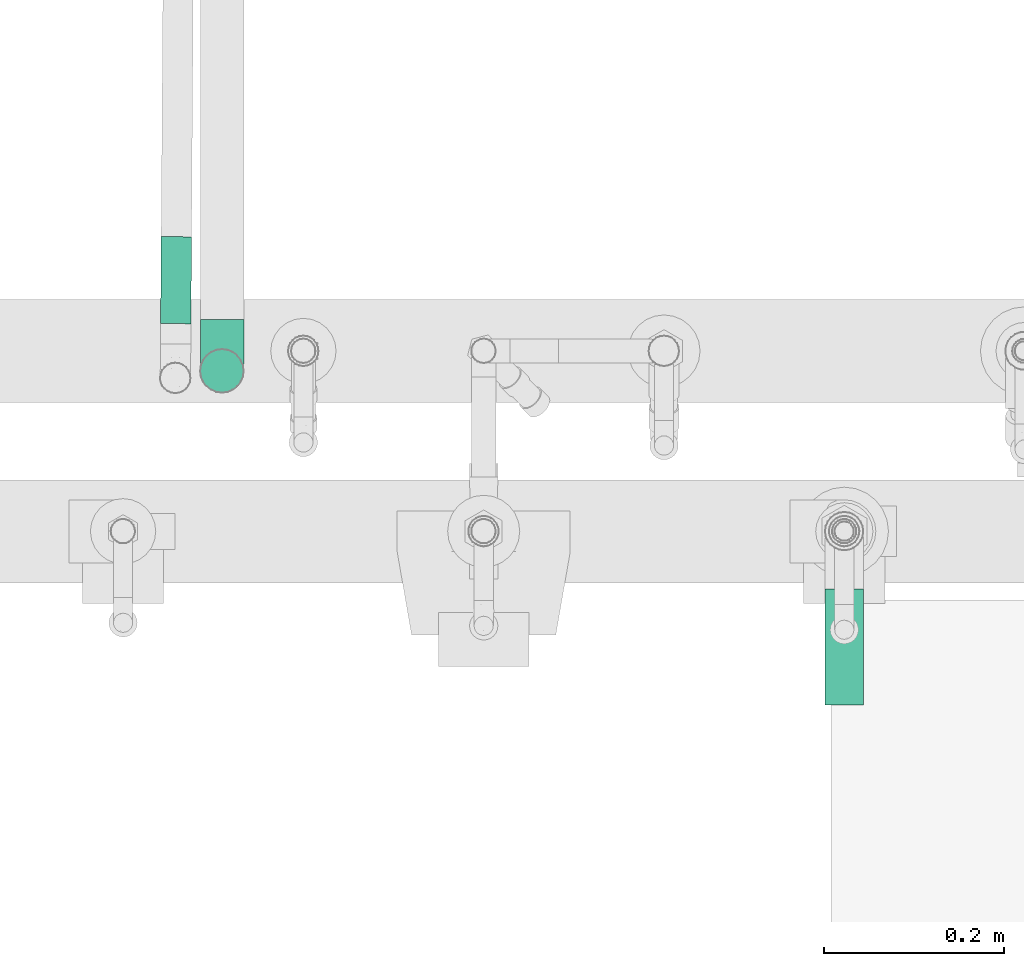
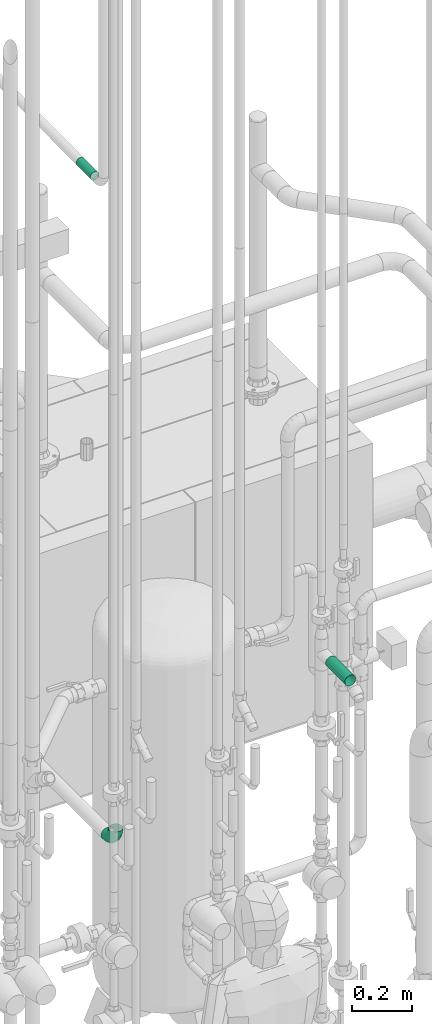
# One storey, part 272 of 374: 3 flow segments.
"""IFC2X3 building model written with IfcOpenShell, lengths in metres."""

from ifc_helpers import new_model, si_unit, direction, origin, place, context, subcontext, project, spatial, open_shell, surface_model, source, transform, mapped, element, save


model = new_model("IFC2X3")

# Units and contexts
model_context = context("Model", 3, precision=1e-05, world=origin(), true_north=direction((-0.4480736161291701, 0.8939966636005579)))
body_context = subcontext(model_context, "Body", "Model", "MODEL_VIEW")
ifc_project = project(units=[si_unit("LENGTHUNIT", "METRE"), si_unit("AREAUNIT", "SQUARE_METRE"), si_unit("VOLUMEUNIT", "CUBIC_METRE"), si_unit("PLANEANGLEUNIT", "RADIAN"), si_unit("THERMODYNAMICTEMPERATUREUNIT", "KELVIN"), si_unit("MASSUNIT", "GRAM", prefix="KILO"), si_unit("TIMEUNIT", "SECOND")], contexts=[model_context])

# Site, building, storey
site_placement = place(None, origin())
site = spatial("IfcSite", under=ifc_project, at=site_placement, Name="Site 1", CompositionType="ELEMENT")
building_placement = place(site_placement, origin())
building = spatial("IfcBuilding", under=site, at=building_placement, Name="Undefined", CompositionType="ELEMENT")
storey_placement = place(building_placement, origin())
storey = spatial("IfcBuildingStorey", under=building, at=storey_placement, Name="Rez de chauss\x8ee", CompositionType="ELEMENT", Elevation=0.0)

# Flow segments
shared_shape_1 = source(origin(), body_context, "Body", "SurfaceModel", [
    surface_model("IfcFaceBasedSurfaceModel", [(0.0, 0.005534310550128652, 0.0), (0.0, 0.0, 0.0), (0.12858966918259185, 0.0, 0.0), (0.12858966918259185, 0.00553431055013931, 0.0), (0.0, -0.00534573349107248, -0.0014323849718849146), (0.12858966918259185, -0.005345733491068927, -0.0014323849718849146), (0.0, -0.010138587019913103, -0.004199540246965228), (0.12858966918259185, -0.010138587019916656, -0.0041995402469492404), (0.0, -0.01405193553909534, -0.008112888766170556), (0.12858966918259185, -0.014051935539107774, -0.008112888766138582), (0.0, -0.016819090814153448, -0.012905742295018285), (0.12858966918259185, -0.016819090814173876, -0.012905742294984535), (0.0, -0.018251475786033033, -0.018251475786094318), (0.12858966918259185, -0.018251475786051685, -0.018251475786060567), (0.0, -0.0182514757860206, -0.02378578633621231), (0.12858966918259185, -0.01825147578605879, -0.023785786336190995), (0.0, -0.01681909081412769, -0.029131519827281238), (0.12858966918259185, -0.016819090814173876, -0.029131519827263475), (0.0, -0.014051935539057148, -0.03392437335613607), (0.12858966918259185, -0.014051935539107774, -0.03392437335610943), (0.0, -0.010138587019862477, -0.037837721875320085), (0.12858966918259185, -0.01013858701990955, -0.03783772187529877), (0.0, -0.005345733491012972, -0.040604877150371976), (0.12858966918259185, -0.005345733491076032, -0.040604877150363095), (0.0, 6.4837024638e-14, -0.042037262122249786), (0.12858966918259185, 7.105427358e-15, -0.042037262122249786), (0.0, 0.005534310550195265, -0.04203726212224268), (0.12858966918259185, 0.005534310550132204, -0.04203726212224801), (0.0, 0.010880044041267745, -0.04060487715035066), (0.12858966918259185, 0.010880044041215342, -0.040604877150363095), (0.0, 0.01567289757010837, -0.03783772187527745), (0.12858966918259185, 0.015672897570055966, -0.03783772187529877), (0.0, 0.019586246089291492, -0.033924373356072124), (0.12858966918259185, 0.019586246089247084, -0.03392437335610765), (0.0, 0.0223534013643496, -0.029131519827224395), (0.12858966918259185, 0.02235340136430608, -0.029131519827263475), (0.0, 0.02378578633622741, -0.023785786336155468), (0.12858966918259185, 0.023785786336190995, -0.023785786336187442), (0.0, 0.023785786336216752, -0.01825147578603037), (0.12858966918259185, 0.023785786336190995, -0.018251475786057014), (0.0, 0.022353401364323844, -0.012905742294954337), (0.12858966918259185, 0.022353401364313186, -0.012905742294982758), (0.0, 0.019586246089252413, -0.008112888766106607), (0.12858966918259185, 0.019586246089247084, -0.008112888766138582), (0.0, 0.015672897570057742, -0.004199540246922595), (0.12858966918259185, 0.015672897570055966, -0.0041995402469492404), (0.0, 0.010880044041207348, -0.0014323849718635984), (0.12858966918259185, 0.010880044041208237, -0.0014323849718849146)], [open_shell([[[0, 1, 2, 3]], [[1, 4, 5, 2]], [[4, 6, 7, 5]], [[6, 8, 9, 7]], [[8, 10, 11, 9]], [[10, 12, 13, 11]], [[12, 14, 15, 13]], [[14, 16, 17, 15]], [[16, 18, 19, 17]], [[18, 20, 21, 19]], [[20, 22, 23, 21]], [[22, 24, 25, 23]], [[24, 26, 27, 25]], [[26, 28, 29, 27]], [[28, 30, 31, 29]], [[30, 32, 33, 31]], [[32, 34, 35, 33]], [[34, 36, 37, 35]], [[36, 38, 39, 37]], [[38, 40, 41, 39]], [[40, 42, 43, 41]], [[42, 44, 45, 43]], [[44, 46, 47, 45]], [[46, 0, 3, 47]]])]),
])
flow_segment_1_placement = place(storey_placement, origin())
element("IfcFlowSegment", 1, at=flow_segment_1_placement, inside=storey, Name="Tube acier d'après DIN 2448", ObjectType="Tube acier d'après DIN 2448", context=body_context, shape_type="MappedRepresentation", body=[
    mapped(shared_shape_1, transform((53.66304898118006, 10.525447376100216, 2.0347979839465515), x_axis=(0.0, 1.0, 0.0), y_axis=(-0.9914448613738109, 0.0, 0.1305261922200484), z_axis=(0.1305261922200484, 0.0, 0.9914448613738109))),
])
shared_shape_2 = source(origin(), body_context, "Body", "SurfaceModel", [
    surface_model("IfcFaceBasedSurfaceModel", [(0.021184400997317, 0.0, 0.0), (0.021076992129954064, 0.006303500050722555, 0.0), (0.00010740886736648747, 0.0063035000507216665, 0.0), (0.0, 0.0, 0.0), (-0.020147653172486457, 0.007005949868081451, -0.005381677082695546), (-0.02046256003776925, 0.0007096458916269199, -0.005436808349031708), (-0.03830784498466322, 0.008362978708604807, -0.015778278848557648), (-0.03880878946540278, 0.00208057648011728, -0.015939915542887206), (-0.05313557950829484, 0.010282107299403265, -0.030481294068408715), (-0.05378842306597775, 0.004019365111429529, -0.030793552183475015), (-0.06362037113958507, 0.01263255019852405, -0.048488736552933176), (-0.0643806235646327, 0.0063938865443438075, -0.048985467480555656), (-0.06904769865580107, 0.015254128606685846, -0.0685734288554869), (-0.06986355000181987, 0.00904232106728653, -0.06927591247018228), (0.020762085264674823, 0.012388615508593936, -0.0016179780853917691), (0.00042231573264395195, 0.012388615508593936, -0.0016179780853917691), (-0.019224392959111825, 0.013069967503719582, -0.006838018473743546), (-0.03683915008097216, 0.014386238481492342, -0.016922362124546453), (-0.0512215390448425, 0.016247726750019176, -0.031183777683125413), (-0.06139142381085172, 0.01852757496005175, -0.048650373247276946), (-0.06665574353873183, 0.021070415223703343, -0.06813182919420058), (0.02026114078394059, 0.017840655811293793, -0.004743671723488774), (0.0009232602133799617, 0.01784065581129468, -0.004743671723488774), (-0.017755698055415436, 0.018488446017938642, -0.009706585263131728), (-0.03450279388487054, 0.019739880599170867, -0.019294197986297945), (-0.04817674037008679, 0.0215096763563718, -0.03285312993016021), (-0.057845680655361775, 0.02367722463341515, -0.04945936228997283), (-0.06285069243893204, 0.02609481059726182, -0.06798120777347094), (0.01960829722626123, 0.022288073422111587, -0.009164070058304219), (0.0015761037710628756, 0.0222880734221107, -0.009164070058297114), (-0.01584165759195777, 0.022892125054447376, -0.013791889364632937), (-0.031457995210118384, 0.024059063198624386, -0.02273214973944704), (-0.04420868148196, 0.02570936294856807, -0.035375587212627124), (-0.05322477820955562, 0.02773055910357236, -0.05086057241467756), (-0.057891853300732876, 0.029984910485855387, -0.06813182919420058), (0.01884804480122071, 0.025427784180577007, -0.014577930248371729), (0.002336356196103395, 0.02542778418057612, -0.014577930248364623), (-0.013612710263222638, 0.025980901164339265, -0.01881552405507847), (-0.027912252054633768, 0.027049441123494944, -0.027001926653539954), (-0.03958777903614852, 0.0285605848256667, -0.03857924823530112), (-0.047843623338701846, 0.03041135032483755, -0.052758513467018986), (-0.05211716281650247, 0.03247561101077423, -0.0685734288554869), (0.018032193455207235, 0.027045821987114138, -0.020616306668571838), (0.0031522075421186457, 0.027045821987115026, -0.020616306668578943), (-0.011220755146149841, 0.02754427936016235, -0.02443513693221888), (-0.024107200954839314, 0.028507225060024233, -0.03181255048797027), (-0.034628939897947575, 0.029869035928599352, -0.04224578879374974), (-0.04206893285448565, 0.031536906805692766, -0.055023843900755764), (-0.045920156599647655, 0.03339717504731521, -0.06927591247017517), (0.017216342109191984, 0.02703192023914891, -0.02686769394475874), (0.003968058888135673, 0.02703192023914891, -0.02686769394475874), (-0.008828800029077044, 0.02747571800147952, -0.030267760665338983), (-0.020302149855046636, 0.02833306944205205, -0.03683618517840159), (-0.02967010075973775, 0.029545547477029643, -0.04612534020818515), (-0.03629424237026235, 0.031030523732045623, -0.05750218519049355), (-0.0397231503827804, 0.032686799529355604, -0.07019140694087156), (0.016456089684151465, 0.02538702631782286, -0.03290607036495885), (0.004728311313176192, 0.025387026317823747, -0.03290607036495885), (-0.006599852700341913, 0.02577988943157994, -0.03591591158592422), (-0.016756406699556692, 0.02653884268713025, -0.04173047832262), (-0.02504919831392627, 0.027612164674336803, -0.04995351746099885), (-0.030913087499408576, 0.02892671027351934, -0.060024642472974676), (-0.033948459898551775, 0.030392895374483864, -0.07125752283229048), (0.01580324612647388, 0.022223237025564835, -0.038319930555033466), (0.005381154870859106, 0.022223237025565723, -0.03831993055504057), (-0.004685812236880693, 0.02257236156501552, -0.0409946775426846), (-0.013711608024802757, 0.023246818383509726, -0.04616189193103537), (-0.02108113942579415, 0.024200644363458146, -0.053469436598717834), (-0.026292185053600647, 0.02536883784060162, -0.06241931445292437), (-0.028989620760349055, 0.026671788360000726, -0.07240160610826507), (0.015302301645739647, 0.017756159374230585, -0.04274032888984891), (0.005882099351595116, 0.017756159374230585, -0.04274032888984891), (-0.0032171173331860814, 0.018071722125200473, -0.04515794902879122), (-0.011375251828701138, 0.01868134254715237, -0.0498284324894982), (-0.01803634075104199, 0.019543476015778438, -0.056433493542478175), (-0.022746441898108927, 0.0205993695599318, -0.0645230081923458), (-0.025184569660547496, 0.021777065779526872, -0.07354568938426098), (0.014987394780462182, 0.012290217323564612, -0.045866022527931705), (0.006197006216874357, 0.012290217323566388, -0.045866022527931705), (-0.002293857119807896, 0.012584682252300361, -0.048122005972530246), (-0.009906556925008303, 0.013153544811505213, -0.05248023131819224), (-0.016122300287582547, 0.013958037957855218, -0.05864369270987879), (-0.020517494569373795, 0.014943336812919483, -0.0661923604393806), (-0.02279261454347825, 0.016042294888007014, -0.0746118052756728), (0.014879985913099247, 0.0061979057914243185, -0.047484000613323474), (0.006304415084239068, 0.006197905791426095, -0.047484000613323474), (-0.0019789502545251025, 0.0064851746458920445, -0.049684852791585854), (-0.009405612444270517, 0.007040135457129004, -0.053936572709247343), (-0.015469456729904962, 0.007824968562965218, -0.05994941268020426), (-0.0197572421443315, 0.008786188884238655, -0.06731360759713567), (-0.021976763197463, 0.009858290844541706, -0.07552729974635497), (0.014987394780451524, -0.00010559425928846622, -0.047484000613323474), (0.006197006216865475, -0.00010559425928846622, -0.04748400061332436), (-0.0022938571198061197, 0.00018887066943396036, -0.049739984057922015), (-0.009906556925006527, 0.0007577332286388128, -0.05409820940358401), (-0.01612230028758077, 0.0015622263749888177, -0.06026167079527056), (-0.02051749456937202, 0.0025475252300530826, -0.06781033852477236), (-0.02279261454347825, 0.003646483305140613, -0.07622978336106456), (0.015302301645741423, -0.006190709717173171, -0.04586602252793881), (0.005882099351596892, -0.006190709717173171, -0.04586602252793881), (-0.003217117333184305, -0.005875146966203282, -0.04828364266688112), (-0.011375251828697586, -0.0052655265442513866, -0.0529541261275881), (-0.018036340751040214, -0.004403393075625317, -0.059559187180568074), (-0.022746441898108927, -0.0033474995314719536, -0.0676487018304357), (-0.025184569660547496, -0.0021698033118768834, -0.07667138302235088), (0.015803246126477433, -0.01164275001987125, -0.042740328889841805), (0.0053811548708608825, -0.011642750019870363, -0.04274032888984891), (-0.0046858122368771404, -0.011293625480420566, -0.04541507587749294), (-0.01371160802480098, -0.01061916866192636, -0.05058229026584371), (-0.021081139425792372, -0.00966534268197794, -0.057889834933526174), (-0.02629218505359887, -0.008497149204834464, -0.06683971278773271), (-0.028989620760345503, -0.00719419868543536, -0.07682200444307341), (0.016456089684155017, -0.016090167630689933, -0.03831993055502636), (0.004728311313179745, -0.016090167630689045, -0.03831993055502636), (-0.00659985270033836, -0.015697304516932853, -0.04132977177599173), (-0.01675640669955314, -0.014938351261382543, -0.047144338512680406), (-0.025049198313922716, -0.013865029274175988, -0.05536737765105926), (-0.030913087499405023, -0.012550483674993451, -0.06543850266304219), (-0.03394845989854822, -0.011084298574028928, -0.07667138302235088), (0.017216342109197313, -0.0192298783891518, -0.032906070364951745), (0.003968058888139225, -0.0192298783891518, -0.032906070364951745), (-0.008828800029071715, -0.01878608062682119, -0.036306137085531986), (-0.020302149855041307, -0.01792872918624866, -0.042874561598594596), (-0.02967010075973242, -0.016716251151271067, -0.052163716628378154), (-0.0362942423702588, -0.015231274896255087, -0.06354056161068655), (-0.039723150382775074, -0.013574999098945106, -0.07622978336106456), (0.018032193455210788, -0.020847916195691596, -0.026867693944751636), (0.003152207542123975, -0.020847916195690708, -0.02686769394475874), (-0.011220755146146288, -0.020349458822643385, -0.03068652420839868), (-0.02410720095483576, -0.0193865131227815, -0.03806393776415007), (-0.034628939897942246, -0.01802470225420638, -0.04849717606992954), (-0.0420689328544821, -0.016356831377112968, -0.06127523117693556), (-0.045920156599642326, -0.014496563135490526, -0.07552729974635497), (0.018848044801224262, -0.020834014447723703, -0.020616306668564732), (0.0023363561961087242, -0.02083401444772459, -0.020616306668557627), (-0.01361271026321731, -0.020280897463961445, -0.024853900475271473), (-0.02791225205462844, -0.019212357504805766, -0.03304030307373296), (-0.039587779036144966, -0.017701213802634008, -0.044617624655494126), (-0.04784362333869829, -0.01585044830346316, -0.05879688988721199), (-0.05211716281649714, -0.01378618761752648, -0.0746118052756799), (0.01960829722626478, -0.019189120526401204, -0.014577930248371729), (0.0015761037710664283, -0.019189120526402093, -0.014577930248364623), (-0.015841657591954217, -0.018585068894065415, -0.01920574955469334), (-0.03145799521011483, -0.017418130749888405, -0.028146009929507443), (-0.04420868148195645, -0.01576783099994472, -0.04078944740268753), (-0.05322477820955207, -0.01374663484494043, -0.05627443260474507), (-0.05789185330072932, -0.011492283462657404, -0.07354568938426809), (0.020261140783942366, -0.016025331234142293, -0.009164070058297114), (0.0009232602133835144, -0.016025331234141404, -0.009164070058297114), (-0.017755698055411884, -0.015377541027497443, -0.014126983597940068), (-0.03450279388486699, -0.014126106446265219, -0.023714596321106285), (-0.04817674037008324, -0.012356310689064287, -0.03727352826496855), (-0.05784568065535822, -0.010188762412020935, -0.05387976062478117), (-0.06285069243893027, -0.007771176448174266, -0.07240160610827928), (0.0207620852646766, -0.011558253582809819, -0.004743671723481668), (0.0004223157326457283, -0.011558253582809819, -0.004743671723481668), (-0.019224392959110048, -0.010876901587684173, -0.009963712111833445), (-0.036839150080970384, -0.009560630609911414, -0.020048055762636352), (-0.051221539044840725, -0.007699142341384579, -0.03430947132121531), (-0.06139142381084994, -0.005419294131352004, -0.051776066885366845), (-0.06665574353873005, -0.0028764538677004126, -0.07125752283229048), (0.02107699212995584, -0.006092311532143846, -0.0016179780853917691), (0.00010740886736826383, -0.006092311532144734, -0.0016179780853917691), (-0.020147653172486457, -0.005389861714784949, -0.006999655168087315), (-0.03830784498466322, -0.004032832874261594, -0.017396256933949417), (-0.05313557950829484, -0.002113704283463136, -0.032099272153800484), (-0.0636203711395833, 0.0002367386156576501, -0.050106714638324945), (-0.06904769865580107, 0.0028583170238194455, -0.07019140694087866)], [open_shell([[[0, 1, 2, 3]], [[3, 2, 4, 5]], [[5, 4, 6, 7]], [[7, 6, 8, 9]], [[9, 8, 10, 11]], [[11, 10, 12, 13]], [[1, 14, 15, 2]], [[2, 15, 16, 4]], [[4, 16, 17, 6]], [[6, 17, 18, 8]], [[8, 18, 19, 10]], [[10, 19, 20, 12]], [[14, 21, 22, 15]], [[15, 22, 23, 16]], [[16, 23, 24, 17]], [[17, 24, 25, 18]], [[18, 25, 26, 19]], [[19, 26, 27, 20]], [[21, 28, 29, 22]], [[22, 29, 30, 23]], [[23, 30, 31, 24]], [[24, 31, 32, 25]], [[25, 32, 33, 26]], [[26, 33, 34, 27]], [[28, 35, 36, 29]], [[29, 36, 37, 30]], [[30, 37, 38, 31]], [[31, 38, 39, 32]], [[32, 39, 40, 33]], [[33, 40, 41, 34]], [[35, 42, 43, 36]], [[36, 43, 44, 37]], [[37, 44, 45, 38]], [[38, 45, 46, 39]], [[39, 46, 47, 40]], [[40, 47, 48, 41]], [[42, 49, 50, 43]], [[43, 50, 51, 44]], [[44, 51, 52, 45]], [[45, 52, 53, 46]], [[46, 53, 54, 47]], [[47, 54, 55, 48]], [[49, 56, 57, 50]], [[50, 57, 58, 51]], [[51, 58, 59, 52]], [[52, 59, 60, 53]], [[53, 60, 61, 54]], [[54, 61, 62, 55]], [[56, 63, 64, 57]], [[57, 64, 65, 58]], [[58, 65, 66, 59]], [[59, 66, 67, 60]], [[60, 67, 68, 61]], [[61, 68, 69, 62]], [[63, 70, 71, 64]], [[64, 71, 72, 65]], [[65, 72, 73, 66]], [[66, 73, 74, 67]], [[67, 74, 75, 68]], [[68, 75, 76, 69]], [[70, 77, 78, 71]], [[71, 78, 79, 72]], [[72, 79, 80, 73]], [[73, 80, 81, 74]], [[74, 81, 82, 75]], [[75, 82, 83, 76]], [[77, 84, 85, 78]], [[78, 85, 86, 79]], [[79, 86, 87, 80]], [[80, 87, 88, 81]], [[81, 88, 89, 82]], [[82, 89, 90, 83]], [[84, 91, 92, 85]], [[85, 92, 93, 86]], [[86, 93, 94, 87]], [[87, 94, 95, 88]], [[88, 95, 96, 89]], [[89, 96, 97, 90]], [[91, 98, 99, 92]], [[92, 99, 100, 93]], [[93, 100, 101, 94]], [[94, 101, 102, 95]], [[95, 102, 103, 96]], [[96, 103, 104, 97]], [[98, 105, 106, 99]], [[99, 106, 107, 100]], [[100, 107, 108, 101]], [[101, 108, 109, 102]], [[102, 109, 110, 103]], [[103, 110, 111, 104]], [[105, 112, 113, 106]], [[106, 113, 114, 107]], [[107, 114, 115, 108]], [[108, 115, 116, 109]], [[109, 116, 117, 110]], [[110, 117, 118, 111]], [[112, 119, 120, 113]], [[113, 120, 121, 114]], [[114, 121, 122, 115]], [[115, 122, 123, 116]], [[116, 123, 124, 117]], [[117, 124, 125, 118]], [[119, 126, 127, 120]], [[120, 127, 128, 121]], [[121, 128, 129, 122]], [[122, 129, 130, 123]], [[123, 130, 131, 124]], [[124, 131, 132, 125]], [[126, 133, 134, 127]], [[127, 134, 135, 128]], [[128, 135, 136, 129]], [[129, 136, 137, 130]], [[130, 137, 138, 131]], [[131, 138, 139, 132]], [[133, 140, 141, 134]], [[134, 141, 142, 135]], [[135, 142, 143, 136]], [[136, 143, 144, 137]], [[137, 144, 145, 138]], [[138, 145, 146, 139]], [[140, 147, 148, 141]], [[141, 148, 149, 142]], [[142, 149, 150, 143]], [[143, 150, 151, 144]], [[144, 151, 152, 145]], [[145, 152, 153, 146]], [[147, 154, 155, 148]], [[148, 155, 156, 149]], [[149, 156, 157, 150]], [[150, 157, 158, 151]], [[151, 158, 159, 152]], [[152, 159, 160, 153]], [[154, 161, 162, 155]], [[155, 162, 163, 156]], [[156, 163, 164, 157]], [[157, 164, 165, 158]], [[158, 165, 166, 159]], [[159, 166, 167, 160]], [[161, 0, 3, 162]], [[162, 3, 5, 163]], [[163, 5, 7, 164]], [[164, 7, 9, 165]], [[165, 9, 11, 166]], [[166, 11, 13, 167]]])]),
])
flow_segment_2_placement = place(storey_placement, origin())
element("IfcFlowSegment", 2, at=flow_segment_2_placement, inside=storey, Name="Tube coudé", ObjectType="Tube coudé", context=body_context, shape_type="MappedRepresentation", body=[
    mapped(shared_shape_2, transform((52.96732838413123, 10.931806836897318, 1.3527651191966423), x_axis=(0.0, 0.9914448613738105, -0.13052619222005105), y_axis=(0.9915887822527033, 0.016893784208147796, 0.12832103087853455), z_axis=(0.1294283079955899, -0.12942830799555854, -0.9831056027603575))),
])
shared_shape_3 = source(origin(), body_context, "Body", "SurfaceModel", [
    surface_model("IfcFaceBasedSurfaceModel", [(0.0, 0.004398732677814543, 0.0), (0.0, 0.0, 0.0), (0.0964854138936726, 7.105427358e-15, 0.0), (0.09648541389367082, 0.00439873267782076, 0.0), (0.0, -0.004248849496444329, -0.00113847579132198), (0.0964854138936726, -0.0042488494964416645, -0.0011384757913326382), (0.0, -0.008058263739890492, -0.003337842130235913), (0.09648541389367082, -0.008058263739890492, -0.003337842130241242), (0.0, -0.01116863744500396, -0.0064482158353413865), (0.09648541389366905, -0.01116863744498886, -0.006448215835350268), (0.0, -0.013368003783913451, -0.010257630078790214), (0.09648541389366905, -0.013368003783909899, -0.010257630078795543), (0.0, -0.014506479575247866, -0.014506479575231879), (0.09648541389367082, -0.014506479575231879, -0.01450647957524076), (0.0, -0.01450647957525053, -0.01890521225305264), (0.09648541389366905, -0.01450647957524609, -0.018905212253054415), (0.0, -0.013368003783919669, -0.023154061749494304), (0.09648541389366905, -0.013368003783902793, -0.023154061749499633), (0.0, -0.011168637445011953, -0.02696347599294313), (0.09648541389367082, -0.011168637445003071, -0.026963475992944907), (0.0, -0.008058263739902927, -0.03007384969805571), (0.0964854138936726, -0.008058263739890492, -0.030073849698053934), (0.0, -0.004248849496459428, -0.03227321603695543), (0.0964854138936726, -0.0042488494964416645, -0.032273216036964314), (0.0, -1.5099033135e-14, -0.03341169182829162), (0.09648541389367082, 7.105427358e-15, -0.03341169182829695), (0.0, 0.00439873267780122, -0.03341169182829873), (0.09648541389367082, 0.00439873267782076, -0.03341169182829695), (0.0, 0.008647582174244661, -0.03227321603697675), (0.09648541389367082, 0.008647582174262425, -0.032273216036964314), (0.0, 0.012456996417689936, -0.030073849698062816), (0.09648541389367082, 0.012456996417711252, -0.03007384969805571), (0.0, 0.01556737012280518, -0.026963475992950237), (0.09648541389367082, 0.015567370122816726, -0.026963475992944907), (0.0, 0.017766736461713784, -0.023154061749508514), (0.0964854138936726, 0.01776673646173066, -0.023154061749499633), (0.0, 0.018905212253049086, -0.01890521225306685), (0.09648541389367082, 0.018905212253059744, -0.01890521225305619), (0.0, 0.018905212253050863, -0.01450647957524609), (0.0964854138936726, 0.01890521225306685, -0.01450647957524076), (0.0, 0.01776673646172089, -0.01025763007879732), (0.09648541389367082, 0.01776673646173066, -0.010257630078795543), (0.0, 0.015567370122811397, -0.006448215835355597), (0.09648541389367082, 0.015567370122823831, -0.006448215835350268), (0.0, 0.012456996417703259, -0.0033378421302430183), (0.09648541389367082, 0.012456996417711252, -0.003337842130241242), (0.0, 0.00864758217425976, -0.0011384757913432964), (0.09648541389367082, 0.00864758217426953, -0.0011384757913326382)], [open_shell([[[0, 1, 2, 3]], [[1, 4, 5, 2]], [[4, 6, 7, 5]], [[6, 8, 9, 7]], [[8, 10, 11, 9]], [[10, 12, 13, 11]], [[12, 14, 15, 13]], [[14, 16, 17, 15]], [[16, 18, 19, 17]], [[18, 20, 21, 19]], [[20, 22, 23, 21]], [[22, 24, 25, 23]], [[24, 26, 27, 25]], [[26, 28, 29, 27]], [[28, 30, 31, 29]], [[30, 32, 33, 31]], [[32, 34, 35, 33]], [[34, 36, 37, 35]], [[36, 38, 39, 37]], [[38, 40, 41, 39]], [[40, 42, 43, 41]], [[42, 44, 45, 43]], [[44, 46, 47, 45]], [[46, 0, 3, 47]]])]),
])
flow_segment_3_placement = place(storey_placement, origin())
element("IfcFlowSegment", 3, at=flow_segment_3_placement, inside=storey, Name="Tube acier d'après DIN 2448", ObjectType="Tube acier d'après DIN 2448", context=body_context, shape_type="MappedRepresentation", body=[
    mapped(shared_shape_3, transform((52.91163044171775, 10.948372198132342, 4.058034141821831), x_axis=(0.0069812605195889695, 0.9999756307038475, 0.0), y_axis=(0.9914207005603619, -0.006921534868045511, -0.1305261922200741), z_axis=(-0.13052301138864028, 0.000911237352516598, -0.9914448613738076))),
])

save(model, "model.ifc")
